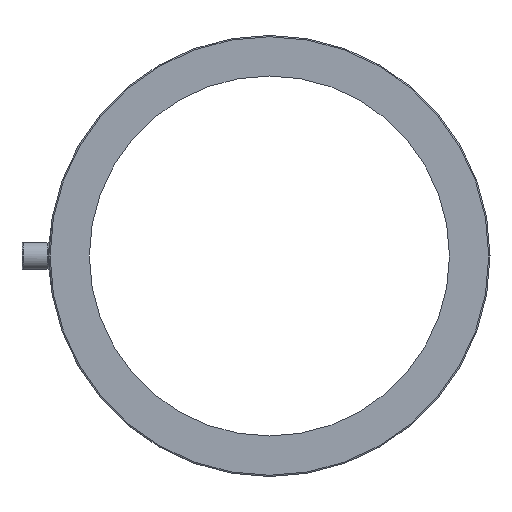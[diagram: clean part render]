
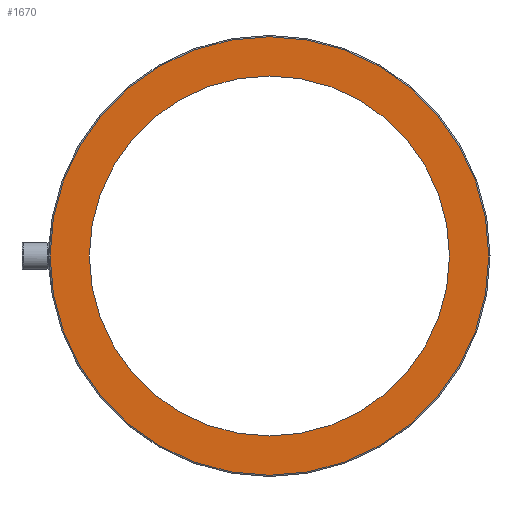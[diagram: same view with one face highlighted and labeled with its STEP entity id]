
A CAD part, left-side view. The second image highlights one B-rep face of the part: STEP entity #1670.
In plain terms, the highlighted planar face has unit normal (-1, 0, 0).
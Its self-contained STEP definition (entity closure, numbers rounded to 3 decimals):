
#29 = ORIENTED_EDGE ( 'NONE', *, *, #1843, .F. ) ;
#33 = FACE_BOUND ( 'NONE', #2501, .T. ) ;
#58 = DIRECTION ( 'NONE',  ( 1., 0., 0. ) ) ;
#179 = DIRECTION ( 'NONE',  ( 0., 1., 0. ) ) ;
#198 = AXIS2_PLACEMENT_3D ( 'NONE', #465, #58, #1913 ) ;
#235 = DIRECTION ( 'NONE',  ( 1., 0., 0. ) ) ;
#361 = ORIENTED_EDGE ( 'NONE', *, *, #1703, .F. ) ;
#463 = AXIS2_PLACEMENT_3D ( 'NONE', #2655, #2069, #179 ) ;
#465 = CARTESIAN_POINT ( 'NONE',  ( 0., 0., 0. ) ) ;
#548 = DIRECTION ( 'NONE',  ( 0., 1., 0. ) ) ;
#560 = DIRECTION ( 'NONE',  ( 1., 0., 0. ) ) ;
#567 = VERTEX_POINT ( 'NONE', #997 ) ;
#590 = ORIENTED_EDGE ( 'NONE', *, *, #2407, .T. ) ;
#712 = CARTESIAN_POINT ( 'NONE',  ( 0., 0., 0. ) ) ;
#851 = AXIS2_PLACEMENT_3D ( 'NONE', #712, #235, #1059 ) ;
#947 = CARTESIAN_POINT ( 'NONE',  ( 0., 0., 0. ) ) ;
#965 = CIRCLE ( 'NONE', #198, 171.75 ) ;
#986 = VERTEX_POINT ( 'NONE', #1934 ) ;
#997 = CARTESIAN_POINT ( 'NONE',  ( 0., -171.75, 0. ) ) ;
#1011 = ORIENTED_EDGE ( 'NONE', *, *, #2339, .T. ) ;
#1059 = DIRECTION ( 'NONE',  ( 0., 1., 0. ) ) ;
#1136 = VERTEX_POINT ( 'NONE', #1338 ) ;
#1307 = DIRECTION ( 'NONE',  ( -1., 0., 0. ) ) ;
#1338 = CARTESIAN_POINT ( 'NONE',  ( 0., 171.75, 0. ) ) ;
#1363 = AXIS2_PLACEMENT_3D ( 'NONE', #1714, #1307, #1693 ) ;
#1461 = FACE_OUTER_BOUND ( 'NONE', #1616, .T. ) ;
#1616 = EDGE_LOOP ( 'NONE', ( #361, #29 ) ) ;
#1670 = ADVANCED_FACE ( 'NONE', ( #33, #1461 ), #2297, .T. ) ;
#1693 = DIRECTION ( 'NONE',  ( 0., -1., 0. ) ) ;
#1703 = EDGE_CURVE ( 'NONE', #1136, #567, #965, .T. ) ;
#1714 = CARTESIAN_POINT ( 'NONE',  ( 0., 141., 0. ) ) ;
#1843 = EDGE_CURVE ( 'NONE', #567, #1136, #2187, .T. ) ;
#1913 = DIRECTION ( 'NONE',  ( 0., 1., 0. ) ) ;
#1934 = CARTESIAN_POINT ( 'NONE',  ( 0., -141., 0. ) ) ;
#2015 = CIRCLE ( 'NONE', #851, 141. ) ;
#2069 = DIRECTION ( 'NONE',  ( 1., 0., 0. ) ) ;
#2187 = CIRCLE ( 'NONE', #463, 171.75 ) ;
#2297 = PLANE ( 'NONE',  #1363 ) ;
#2335 = CIRCLE ( 'NONE', #2587, 141. ) ;
#2339 = EDGE_CURVE ( 'NONE', #2547, #986, #2015, .T. ) ;
#2407 = EDGE_CURVE ( 'NONE', #986, #2547, #2335, .T. ) ;
#2484 = CARTESIAN_POINT ( 'NONE',  ( 0., 141., 0. ) ) ;
#2501 = EDGE_LOOP ( 'NONE', ( #1011, #590 ) ) ;
#2547 = VERTEX_POINT ( 'NONE', #2484 ) ;
#2587 = AXIS2_PLACEMENT_3D ( 'NONE', #947, #560, #548 ) ;
#2655 = CARTESIAN_POINT ( 'NONE',  ( 0., 0., 0. ) ) ;
